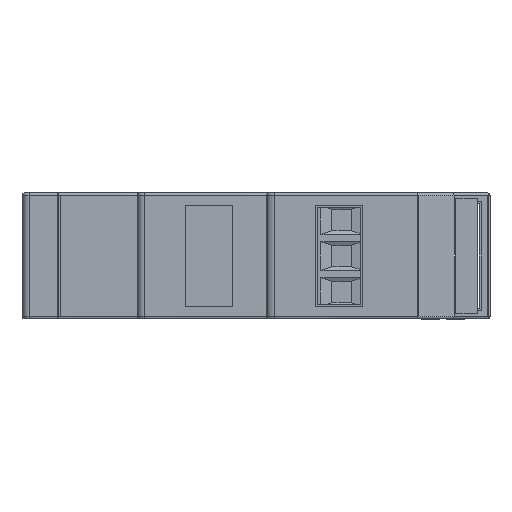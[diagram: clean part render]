
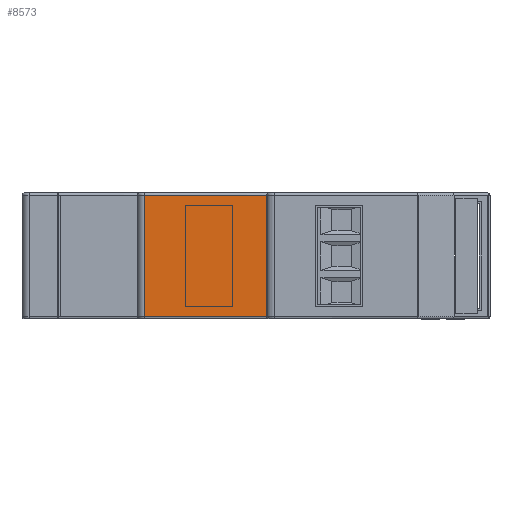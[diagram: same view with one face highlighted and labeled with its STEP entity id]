
A CAD part, left-side view. The second image highlights one B-rep face of the part: STEP entity #8573.
In plain terms, the highlighted planar face has unit normal (-1, 0, 0).
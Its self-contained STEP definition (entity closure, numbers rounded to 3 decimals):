
#4633 = LINE ( 'NONE', #4635, #26333 ) ;
#4635 = CARTESIAN_POINT ( 'NONE',  ( 11., 48., 17.5 ) ) ;
#4636 = DIRECTION ( 'NONE',  ( 0., 0., -1. ) ) ;
#5008 = LINE ( 'NONE', #5009, #26465 ) ;
#5009 = CARTESIAN_POINT ( 'NONE',  ( 11., 31., 17.5 ) ) ;
#5010 = DIRECTION ( 'NONE',  ( 0., 0., -1. ) ) ;
#5131 = LINE ( 'NONE', #5132, #26507 ) ;
#5132 = CARTESIAN_POINT ( 'NONE',  ( 11., 31., 17.2 ) ) ;
#5133 = DIRECTION ( 'NONE',  ( 0., 1., 0. ) ) ;
#8573 = ADVANCED_FACE ( 'NONE', ( #40705 ), #40689, .F. ) ;
#9042 = EDGE_CURVE ( 'NONE', #38504, #38515, #4633, .T. ) ;
#9167 = EDGE_CURVE ( 'NONE', #38399, #38400, #5008, .T. ) ;
#9208 = EDGE_CURVE ( 'NONE', #38399, #38504, #5131, .T. ) ;
#9264 = EDGE_CURVE ( 'NONE', #38515, #38400, #19176, .T. ) ;
#17090 = AXIS2_PLACEMENT_3D ( 'NONE', #40718, #40719, #40720 ) ;
#19176 = LINE ( 'NONE', #19177, #26564 ) ;
#19177 = CARTESIAN_POINT ( 'NONE',  ( 11., 31., 0.3 ) ) ;
#19178 = DIRECTION ( 'NONE',  ( 0., -1., 0. ) ) ;
#25666 = ORIENTED_EDGE ( 'NONE', *, *, #9208, .T. ) ;
#25695 = ORIENTED_EDGE ( 'NONE', *, *, #9167, .F. ) ;
#25696 = ORIENTED_EDGE ( 'NONE', *, *, #9264, .T. ) ;
#25704 = ORIENTED_EDGE ( 'NONE', *, *, #9042, .T. ) ;
#26333 = VECTOR ( 'NONE', #4636, 1000. ) ;
#26465 = VECTOR ( 'NONE', #5010, 1000. ) ;
#26507 = VECTOR ( 'NONE', #5133, 1000. ) ;
#26564 = VECTOR ( 'NONE', #19178, 1000. ) ;
#28723 = CARTESIAN_POINT ( 'NONE',  ( 11., 31., 17.2 ) ) ;
#28724 = CARTESIAN_POINT ( 'NONE',  ( 11., 31., 0.3 ) ) ;
#28828 = CARTESIAN_POINT ( 'NONE',  ( 11., 48., 17.2 ) ) ;
#28843 = CARTESIAN_POINT ( 'NONE',  ( 11., 48., 0.3 ) ) ;
#37257 = EDGE_LOOP ( 'NONE', ( #25704, #25696, #25695, #25666 ) ) ;
#38399 = VERTEX_POINT ( 'NONE', #28723 ) ;
#38400 = VERTEX_POINT ( 'NONE', #28724 ) ;
#38504 = VERTEX_POINT ( 'NONE', #28828 ) ;
#38515 = VERTEX_POINT ( 'NONE', #28843 ) ;
#40689 = PLANE ( 'NONE',  #17090 ) ;
#40705 = FACE_OUTER_BOUND ( 'NONE', #37257, .T. ) ;
#40718 = CARTESIAN_POINT ( 'NONE',  ( 11., 31., 17.5 ) ) ;
#40719 = DIRECTION ( 'NONE',  ( 1., 0., 0. ) ) ;
#40720 = DIRECTION ( 'NONE',  ( 0., 1., 0. ) ) ;
